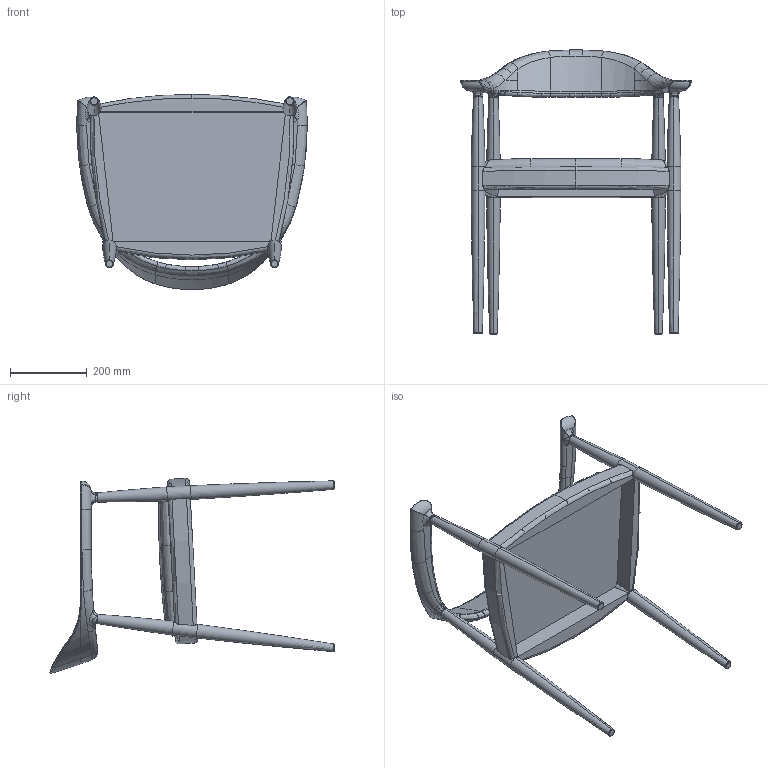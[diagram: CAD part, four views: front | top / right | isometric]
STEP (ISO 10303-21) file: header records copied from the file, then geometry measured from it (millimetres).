
FILE_DESCRIPTION (( 'STEP AP214' ), '1' );
FILE_NAME ('U僠僃傾乕CG.STEP', '2026-03-21T04:51:17', ( '' ), ( '' ), 'SwSTEP 2.0', 'SolidWorks 2025', '' );
FILE_SCHEMA (( 'AUTOMOTIVE_DESIGN' ));
Length unit declared in the file: millimetre
Products named in the file (1): UチェアーCG
Bounding box: 600 x 739.97 x 508.51 mm (x, y, z)
Volume: 13002919.8 mm3; surface area: 1138388.7 mm2
Topology: 10 solids, 11 shells, 349 faces, 795 edges, 464 vertices
Faces by surface type: bspline 168, torus 66, cylinder 61, plane 42, cone 8, sphere 4
Entity records: 21959 total; most frequent: CARTESIAN_POINT 15269, ORIENTED_EDGE 1570, DIRECTION 1119, EDGE_CURVE 785, AXIS2_PLACEMENT_3D 515, VERTEX_POINT 464, EDGE_LOOP 355, ADVANCED_FACE 349
